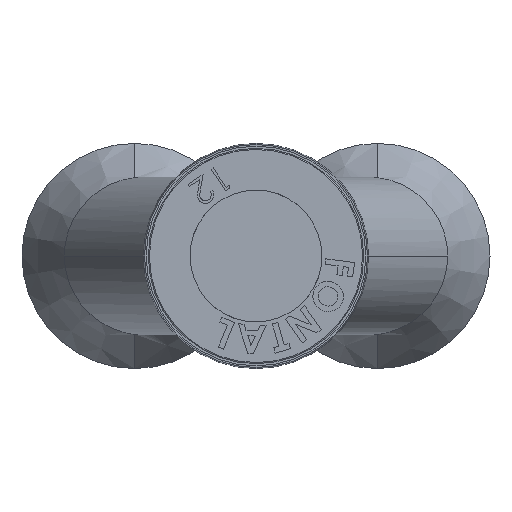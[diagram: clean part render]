
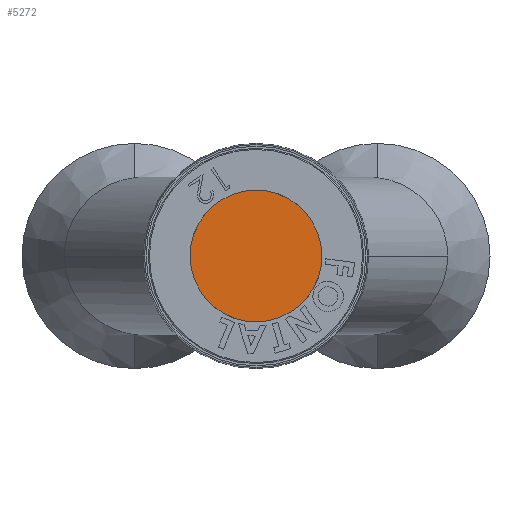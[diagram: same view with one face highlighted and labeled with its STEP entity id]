
A CAD part, front view. The second image highlights one B-rep face of the part: STEP entity #5272.
In plain terms, the highlighted planar face has unit normal (0, -1, 0).
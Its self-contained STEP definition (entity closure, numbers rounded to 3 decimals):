
#33 = EDGE_CURVE ( 'NONE', #6207, #1660, #3860, .T. ) ;
#174 = AXIS2_PLACEMENT_3D ( 'NONE', #5615, #5140, #2134 ) ;
#270 = CARTESIAN_POINT ( 'NONE',  ( 0., 6.92, 6. ) ) ;
#395 = DIRECTION ( 'NONE',  ( 0., 0., -1. ) ) ;
#1110 = CARTESIAN_POINT ( 'NONE',  ( 0., 6.92, -6. ) ) ;
#1248 = DIRECTION ( 'NONE',  ( 0., 0., -1. ) ) ;
#1660 = VERTEX_POINT ( 'NONE', #270 ) ;
#1961 = AXIS2_PLACEMENT_3D ( 'NONE', #2910, #6390, #395 ) ;
#2134 = DIRECTION ( 'NONE',  ( 0., 0., -1. ) ) ;
#2234 = PLANE ( 'NONE',  #3768 ) ;
#2910 = CARTESIAN_POINT ( 'NONE',  ( 0., 6.92, 0. ) ) ;
#3113 = FACE_OUTER_BOUND ( 'NONE', #3765, .T. ) ;
#3765 = EDGE_LOOP ( 'NONE', ( #4506, #5494 ) ) ;
#3768 = AXIS2_PLACEMENT_3D ( 'NONE', #5727, #4220, #1248 ) ;
#3860 = CIRCLE ( 'NONE', #1961, 6. ) ;
#4220 = DIRECTION ( 'NONE',  ( 0., -1., 0. ) ) ;
#4506 = ORIENTED_EDGE ( 'NONE', *, *, #33, .T. ) ;
#4557 = EDGE_CURVE ( 'NONE', #1660, #6207, #5164, .T. ) ;
#5140 = DIRECTION ( 'NONE',  ( 0., -1., 0. ) ) ;
#5164 = CIRCLE ( 'NONE', #174, 6. ) ;
#5272 = ADVANCED_FACE ( 'NONE', ( #3113 ), #2234, .T. ) ;
#5494 = ORIENTED_EDGE ( 'NONE', *, *, #4557, .T. ) ;
#5615 = CARTESIAN_POINT ( 'NONE',  ( 0., 6.92, 0. ) ) ;
#5727 = CARTESIAN_POINT ( 'NONE',  ( 0., 6.92, 0. ) ) ;
#6207 = VERTEX_POINT ( 'NONE', #1110 ) ;
#6390 = DIRECTION ( 'NONE',  ( 0., -1., 0. ) ) ;
